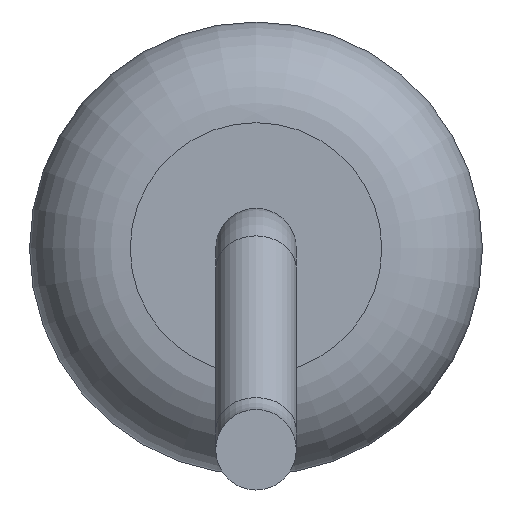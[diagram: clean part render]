
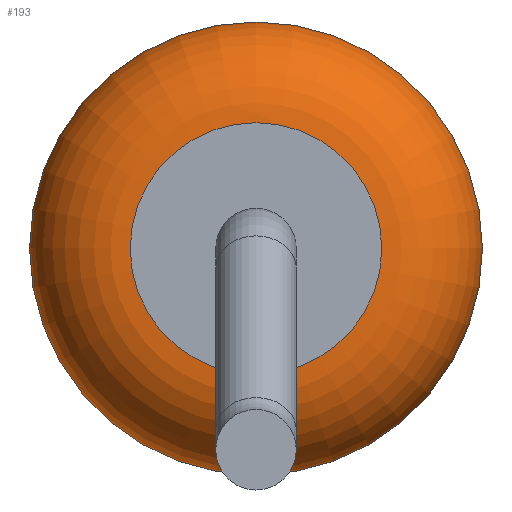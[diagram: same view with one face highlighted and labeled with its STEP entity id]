
A CAD part, left-side view. The second image highlights one B-rep face of the part: STEP entity #193.
In plain terms, the highlighted toroidal (fillet/blend) face has major radius 1.25 mm and minor radius 1 mm.
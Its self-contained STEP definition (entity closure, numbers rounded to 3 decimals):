
#193=ADVANCED_FACE('',(#398,#400),#402,.T.);
#398=FACE_OUTER_BOUND('',#399,.T.);
#399=EDGE_LOOP('',(#497));
#400=FACE_OUTER_BOUND('',#401,.T.);
#401=EDGE_LOOP('',(#498));
#402=TOROIDAL_SURFACE('',#403,1.25,1.);
#403=AXIS2_PLACEMENT_3D('',#404,#405,#406);
#404=CARTESIAN_POINT('',(-4.75,0.,0.));
#405=DIRECTION('',(-1.,0.,0.));
#406=DIRECTION('',(0.,0.,1.));
#497=ORIENTED_EDGE('',*,*,#526,.T.);
#498=ORIENTED_EDGE('',*,*,#527,.F.);
#526=EDGE_CURVE('',#562,#562,#563,.T.);
#527=EDGE_CURVE('',#564,#564,#565,.T.);
#562=VERTEX_POINT('',#648);
#563=CIRCLE('',#649,2.25);
#564=VERTEX_POINT('',#653);
#565=CIRCLE('',#654,1.25);
#648=CARTESIAN_POINT('',(-4.75,0.,2.25));
#649=AXIS2_PLACEMENT_3D('',#650,#651,#652);
#650=CARTESIAN_POINT('',(-4.75,0.,0.));
#651=DIRECTION('',(-1.,0.,0.));
#652=DIRECTION('',(0.,0.,1.));
#653=CARTESIAN_POINT('',(-5.75,0.,1.25));
#654=AXIS2_PLACEMENT_3D('',#655,#656,#657);
#655=CARTESIAN_POINT('',(-5.75,0.,0.));
#656=DIRECTION('',(-1.,0.,0.));
#657=DIRECTION('',(0.,0.,1.));
